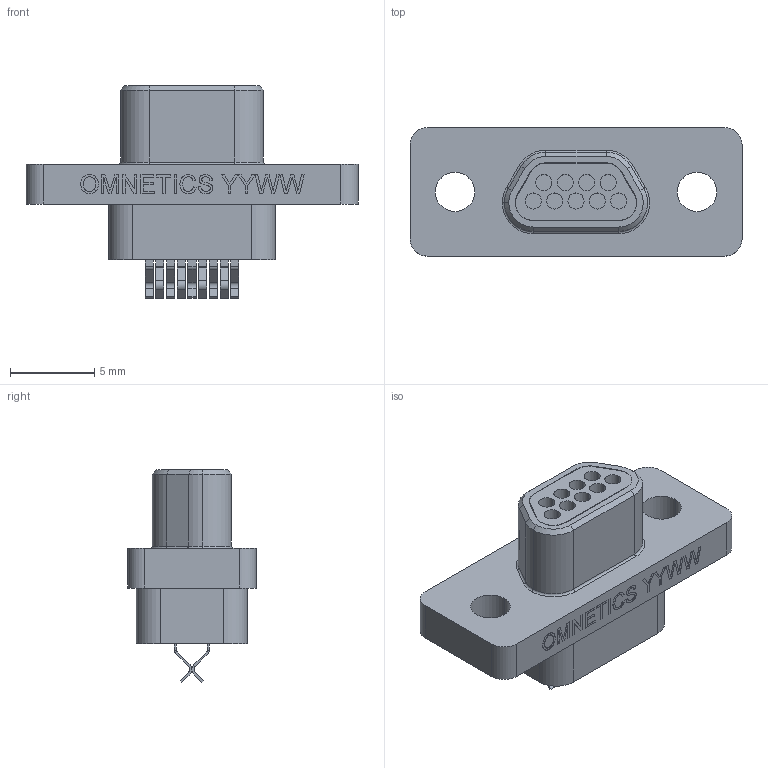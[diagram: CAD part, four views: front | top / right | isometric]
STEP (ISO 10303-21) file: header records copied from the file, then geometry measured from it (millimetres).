
FILE_DESCRIPTION (( 'STEP AP214' ), '1' );
FILE_NAME ('A98147-009 REV B.STEP', '2021-01-25T20:16:11', ( '' ), ( '' ), 'SwSTEP 2.0', 'SolidWorks 2019', '' );
FILE_SCHEMA (( 'AUTOMOTIVE_DESIGN' ));
Length unit declared in the file: inch
Products named in the file (1): A98147-009 REV B
Bounding box: 19.68 x 7.63 x 12.59 mm (x, y, z)
Volume: 650.1 mm3; surface area: 1094.5 mm2
Topology: 1 solids, 3 shells, 527 faces, 1248 edges, 764 vertices
Faces by surface type: plane 322, cylinder 123, bspline 54, cone 23, torus 5
Entity records: 24344 total; most frequent: CARTESIAN_POINT 5572, ORIENTED_EDGE 2484, DIRECTION 2335, EDGE_CURVE 1242, VECTOR 873, LINE 873, VERTEX_POINT 764, AXIS2_PLACEMENT_3D 731
